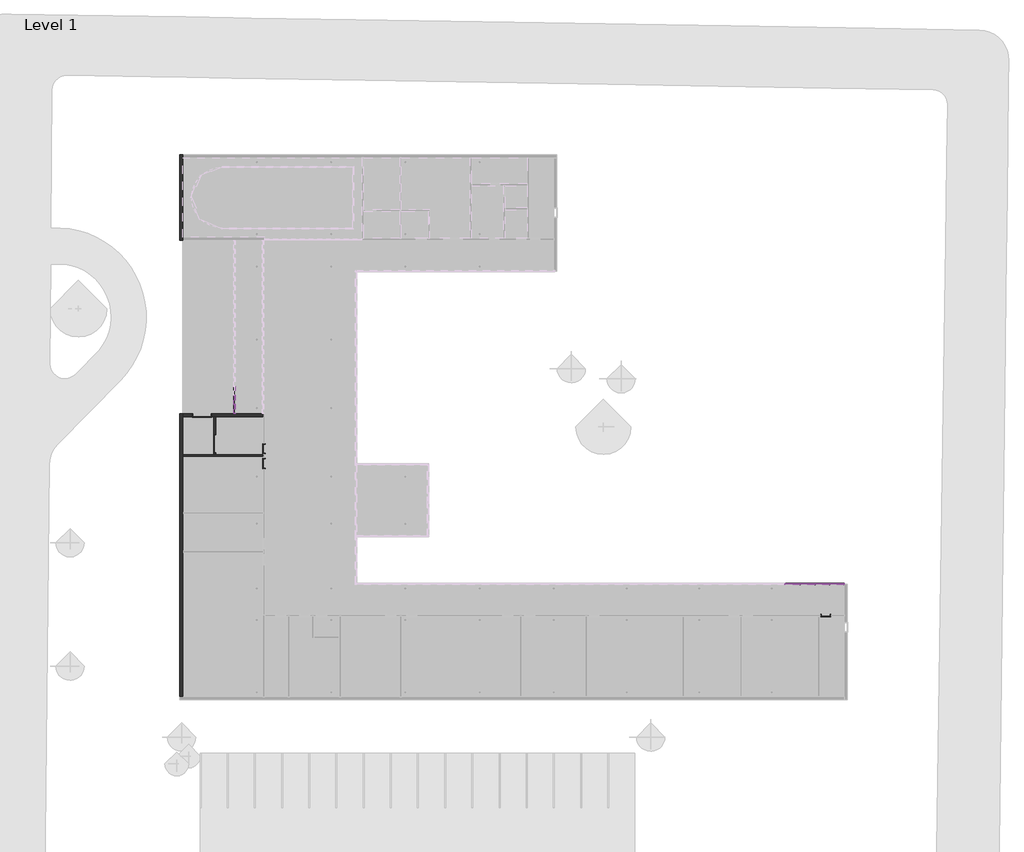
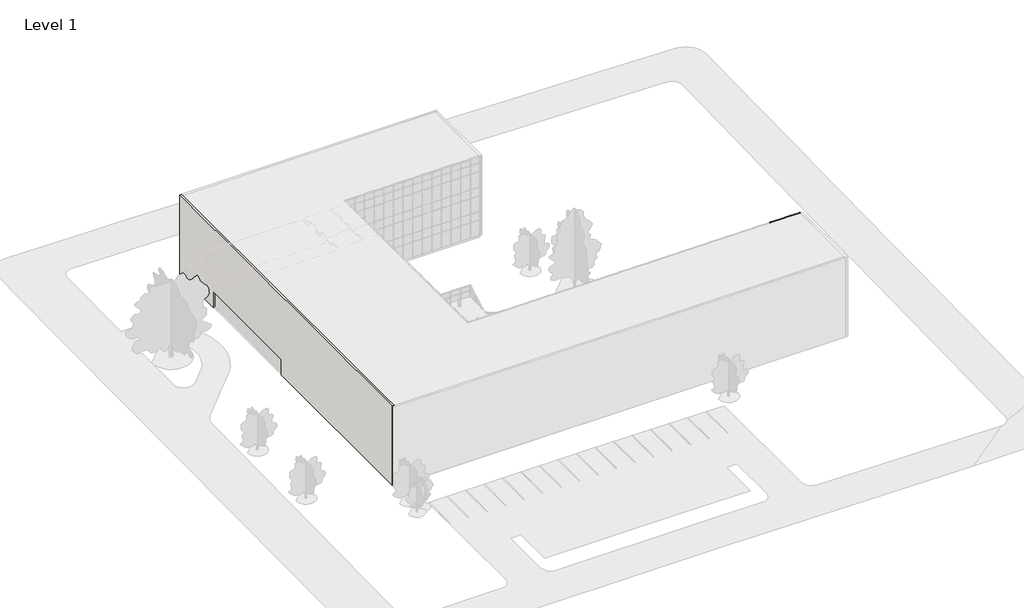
# One storey, part 9 of 18: 72 members, 33 plates, 5 doors, 4 walls.
"""IFC4 building model written with IfcOpenShell, lengths in millimetres."""

from ifc_helpers import new_model, si_unit, frame, origin, place, context, project, spatial, polyline, outline, extrude, faceted_brep, transform, mapped, element, save
from components import door_0915mm_x_2134mm_2aa27b83, door_0915mm_x_2134mm_3fa07aa3, door_2_x_0915mm_x_2134mm_c74f849d, door_2_x_0915mm_x_2134mm_afd50e46, rectangular_mullion_50mm_x_150mm_3fa3ad65, rectangular_mullion_50mm_x_150mm_d427b131, rectangular_mullion_50mm_x_150mm_d8a63713, rectangular_mullion_50mm_x_150mm_a28728bf, rectangular_mullion_50mm_x_150mm_a376ce0f, rectangular_mullion_50mm_x_150mm_4471a7bc, rectangular_mullion_50mm_x_150mm_22af440f, rectangular_mullion_50mm_x_150mm_0f59f38f, rectangular_mullion_50mm_x_150mm_0d1e5fd7, rectangular_mullion_50mm_x_150mm_5f185edf, rectangular_mullion_50mm_x_150mm_478b79f1, rectangular_mullion_50mm_x_150mm_e13fe9f0, rectangular_mullion_50mm_x_150mm_bbc1c4ea, rectangular_mullion_50mm_x_150mm_eeb88b28, rectangular_mullion_50mm_x_150mm_36202a7c, rectangular_mullion_50mm_x_150mm_84717ec5, rectangular_mullion_50mm_x_150mm_d94480a8, rectangular_mullion_50mm_x_150mm_5f630e3e, system_panel_glazed_aa3f7126, system_panel_glazed_37b7c907, system_panel_glazed_7c3f78ea, system_panel_glazed_1f05e993, system_panel_glazed_650e5b75, system_panel_glazed_65478968, system_panel_glazed_98ac4f7d, system_panel_glazed_4c130a31, system_panel_solid_0e2242f5, system_panel_solid_368a6b70, system_panel_solid_52262057, system_panel_solid_ece33ae8

model = new_model("IFC4")

# Units and contexts
model_context = context("Model", 3, world=origin())
ifc_project = project(units=[si_unit("LENGTHUNIT", "METRE", prefix="MILLI")], contexts=[model_context])

# Site, building, storey
site = spatial("IfcSite", under=ifc_project)
building = spatial("IfcBuilding", under=site)
storey = spatial("IfcBuildingStorey", under=building, Name="Level 1", Elevation=0.0)

# Doors
placement = place(None, origin())
door_0915mm_x_2134mm_shape = door_0915mm_x_2134mm_2aa27b83(model_context)
element("IfcDoor", 1, ObjectType="m-doors-hm-f1-a : 0915mm x 2134mm", at=placement, inside=storey, context=model_context, shape_type="MappedRepresentation", body=[
    mapped(door_0915mm_x_2134mm_shape, transform((-1995.8386635, 1518.5392059, 0.0), x_axis=(0.0, 1.0, 0.0), y_axis=(-1.0, 0.0, 0.0), z_axis=(0.0, 0.0, 1.0))),
])
door_0915mm_x_2134mm_2_shape = door_0915mm_x_2134mm_3fa07aa3(model_context)
element("IfcDoor", 2, ObjectType="m-doors-hm-f1-a : 0915mm x 2134mm", at=placement, inside=storey, context=model_context, shape_type="MappedRepresentation", body=[
    mapped(door_0915mm_x_2134mm_2_shape, transform((-1995.8386635, 18.5392059, 0.0), x_axis=(0.0, -1.0, 0.0), y_axis=(1.0, 0.0, 0.0), z_axis=(0.0, 0.0, 1.0))),
])
element("IfcDoor", 3, ObjectType="m-doors-hm-f1-a : 0915mm x 2134mm", at=placement, inside=storey, context=model_context, shape_type="MappedRepresentation", body=[
    mapped(door_0915mm_x_2134mm_2_shape, transform((54804.1173382, -15479.7006057, 0.0), x_axis=(1.0, 0.0, 0.0), y_axis=(0.0, 1.0, 0.0), z_axis=(0.0, 0.0, 1.0))),
])
door_2_x_0915mm_x_2134mm_shape = door_2_x_0915mm_x_2134mm_c74f849d(model_context)
element("IfcDoor", 4, ObjectType="m-doors-hm-f2-a : 2 x 0915mm x 2134mm", at=placement, inside=storey, context=model_context, shape_type="MappedRepresentation", body=[
    mapped(door_2_x_0915mm_x_2134mm_shape, transform((-6944.8386635, 2018.5392059, 0.0), x_axis=(0.0, 1.0, 0.0), y_axis=(-1.0, 0.0, 0.0), z_axis=(0.0, 0.0, 1.0))),
])
door_2_x_0915mm_x_2134mm_2_shape = door_2_x_0915mm_x_2134mm_afd50e46(model_context)
element("IfcDoor", 5, ObjectType="m-doors-hm-f2-a : 2 x 0915mm x 2134mm", at=placement, inside=storey, context=model_context, shape_type="MappedRepresentation", body=[
    mapped(door_2_x_0915mm_x_2134mm_2_shape, transform((-8069.8386635, 4696.5799804, 0.0), x_axis=(-1.0, 0.0, 0.0), y_axis=(0.0, -1.0, 0.0), z_axis=(0.0, 0.0, 1.0))),
])

# Members
rectangular_mullion_50mm_x_150mm_shape = rectangular_mullion_50mm_x_150mm_3fa3ad65(model_context)
element("IfcMember", 6, ObjectType="Rectangular Mullion : 50mm x 150mm", at=placement, inside=storey, context=model_context, shape_type="MappedRepresentation", body=[
    mapped(rectangular_mullion_50mm_x_150mm_shape, transform((-4803.8386635, 5072.5799804, 3550.0), x_axis=(0.0, 0.0, 1.0), y_axis=(-1.0, 0.0, 0.0), z_axis=(0.0, -1.0, 0.0))),
])
rectangular_mullion_50mm_x_150mm_2_shape = rectangular_mullion_50mm_x_150mm_d427b131(model_context)
element("IfcMember", 7, ObjectType="Rectangular Mullion : 50mm x 150mm", at=placement, inside=storey, context=model_context, shape_type="MappedRepresentation", body=[
    mapped(rectangular_mullion_50mm_x_150mm_2_shape, transform((-4803.8386635, 7810.4220859, 3550.0), x_axis=(0.0, 0.0, 1.0), y_axis=(-1.0, 0.0, 0.0), z_axis=(0.0, -1.0, 0.0))),
])
element("IfcMember", 8, ObjectType="Rectangular Mullion : 50mm x 150mm", at=placement, inside=storey, context=model_context, shape_type="MappedRepresentation", body=[
    mapped(rectangular_mullion_50mm_x_150mm_2_shape, transform((-4803.8386635, 6889.4747175, 3550.0), x_axis=(0.0, 0.0, 1.0), y_axis=(-1.0, 0.0, 0.0), z_axis=(0.0, -1.0, 0.0))),
])
element("IfcMember", 9, ObjectType="Rectangular Mullion : 50mm x 150mm", at=placement, inside=storey, context=model_context, shape_type="MappedRepresentation", body=[
    mapped(rectangular_mullion_50mm_x_150mm_2_shape, transform((-4803.8386635, 5968.5273491, 3550.0), x_axis=(0.0, 0.0, 1.0), y_axis=(-1.0, 0.0, 0.0), z_axis=(0.0, -1.0, 0.0))),
])
element("IfcMember", 10, ObjectType="Rectangular Mullion : 50mm x 150mm", at=placement, inside=storey, context=model_context, shape_type="MappedRepresentation", body=[
    mapped(rectangular_mullion_50mm_x_150mm_2_shape, transform((-4803.8386635, 7760.4220859, 0.0), x_axis=(0.0, 0.0, -1.0), y_axis=(-1.0, 0.0, 0.0), z_axis=(0.0, 1.0, 0.0))),
])
element("IfcMember", 11, ObjectType="Rectangular Mullion : 50mm x 150mm", at=placement, inside=storey, context=model_context, shape_type="MappedRepresentation", body=[
    mapped(rectangular_mullion_50mm_x_150mm_2_shape, transform((-4803.8386635, 6839.4747175, 0.0), x_axis=(0.0, 0.0, -1.0), y_axis=(-1.0, 0.0, 0.0), z_axis=(0.0, 1.0, 0.0))),
])
element("IfcMember", 12, ObjectType="Rectangular Mullion : 50mm x 150mm", at=placement, inside=storey, context=model_context, shape_type="MappedRepresentation", body=[
    mapped(rectangular_mullion_50mm_x_150mm_shape, transform((-4803.8386635, 5918.5273491, 0.0), x_axis=(0.0, 0.0, -1.0), y_axis=(-1.0, 0.0, 0.0), z_axis=(0.0, 1.0, 0.0))),
])
rectangular_mullion_50mm_x_150mm_3_shape = rectangular_mullion_50mm_x_150mm_d8a63713(model_context)
element("IfcMember", 13, ObjectType="Rectangular Mullion : 50mm x 150mm", at=placement, inside=storey, context=model_context, shape_type="MappedRepresentation", body=[
    mapped(rectangular_mullion_50mm_x_150mm_3_shape, transform((-4803.8386635, 7785.4220859, 0.0), x_axis=(0.0, -1.0, 0.0), y_axis=(-1.0, 0.0, 0.0), z_axis=(0.0, 0.0, -1.0))),
])
element("IfcMember", 14, ObjectType="Rectangular Mullion : 50mm x 150mm", at=placement, inside=storey, context=model_context, shape_type="MappedRepresentation", body=[
    mapped(rectangular_mullion_50mm_x_150mm_3_shape, transform((-4803.8386635, 6864.4747175, 0.0), x_axis=(0.0, -1.0, 0.0), y_axis=(-1.0, 0.0, 0.0), z_axis=(0.0, 0.0, -1.0))),
])
element("IfcMember", 15, ObjectType="Rectangular Mullion : 50mm x 150mm", at=placement, inside=storey, context=model_context, shape_type="MappedRepresentation", body=[
    mapped(rectangular_mullion_50mm_x_150mm_3_shape, transform((-4803.8386635, 5943.5273491, 0.0), x_axis=(0.0, -1.0, 0.0), y_axis=(-1.0, 0.0, 0.0), z_axis=(0.0, 0.0, -1.0))),
])
rectangular_mullion_50mm_x_150mm_4_shape = rectangular_mullion_50mm_x_150mm_a28728bf(model_context)
element("IfcMember", 16, ObjectType="Rectangular Mullion : 50mm x 150mm", at=placement, inside=storey, context=model_context, shape_type="MappedRepresentation", body=[
    mapped(rectangular_mullion_50mm_x_150mm_4_shape, transform((-4803.8386635, 6864.4747175, 2135.0), x_axis=(0.0, -1.0, 0.0), y_axis=(-1.0, 0.0, 0.0), z_axis=(0.0, 0.0, -1.0))),
])
element("IfcMember", 17, ObjectType="Rectangular Mullion : 50mm x 150mm", at=placement, inside=storey, context=model_context, shape_type="MappedRepresentation", body=[
    mapped(rectangular_mullion_50mm_x_150mm_4_shape, transform((-4803.8386635, 5943.5273491, 2135.0), x_axis=(0.0, -1.0, 0.0), y_axis=(-1.0, 0.0, 0.0), z_axis=(0.0, 0.0, -1.0))),
])
rectangular_mullion_50mm_x_150mm_5_shape = rectangular_mullion_50mm_x_150mm_a376ce0f(model_context)
element("IfcMember", 18, ObjectType="Rectangular Mullion : 50mm x 150mm", at=placement, inside=storey, context=model_context, shape_type="MappedRepresentation", body=[
    mapped(rectangular_mullion_50mm_x_150mm_5_shape, transform((-4803.8386635, 5072.5799804, 2135.0), x_axis=(0.0, 0.0, 1.0), y_axis=(-1.0, 0.0, 0.0), z_axis=(0.0, -1.0, 0.0))),
])
rectangular_mullion_50mm_x_150mm_6_shape = rectangular_mullion_50mm_x_150mm_4471a7bc(model_context)
element("IfcMember", 19, ObjectType="Rectangular Mullion : 50mm x 150mm", at=placement, inside=storey, context=model_context, shape_type="MappedRepresentation", body=[
    mapped(rectangular_mullion_50mm_x_150mm_6_shape, transform((-4803.8386635, 6889.4747175, 2135.0), x_axis=(0.0, 0.0, 1.0), y_axis=(-1.0, 0.0, 0.0), z_axis=(0.0, -1.0, 0.0))),
])
element("IfcMember", 20, ObjectType="Rectangular Mullion : 50mm x 150mm", at=placement, inside=storey, context=model_context, shape_type="MappedRepresentation", body=[
    mapped(rectangular_mullion_50mm_x_150mm_6_shape, transform((-4803.8386635, 5968.5273491, 2135.0), x_axis=(0.0, 0.0, 1.0), y_axis=(-1.0, 0.0, 0.0), z_axis=(0.0, -1.0, 0.0))),
])
rectangular_mullion_50mm_x_150mm_7_shape = rectangular_mullion_50mm_x_150mm_22af440f(model_context)
element("IfcMember", 21, ObjectType="Rectangular Mullion : 50mm x 150mm", at=placement, inside=storey, context=model_context, shape_type="MappedRepresentation", body=[
    mapped(rectangular_mullion_50mm_x_150mm_7_shape, transform((-4803.8386635, 5022.5799804, 0.0), x_axis=(0.0, -1.0, 0.0), y_axis=(-1.0, 0.0, 0.0), z_axis=(0.0, 0.0, -1.0))),
])
rectangular_mullion_50mm_x_150mm_8_shape = rectangular_mullion_50mm_x_150mm_0f59f38f(model_context)
element("IfcMember", 22, ObjectType="Rectangular Mullion : 50mm x 150mm", at=placement, inside=storey, context=model_context, shape_type="MappedRepresentation", body=[
    mapped(rectangular_mullion_50mm_x_150mm_8_shape, transform((-4803.8386635, 5022.5799804, 2135.0), x_axis=(0.0, -1.0, 0.0), y_axis=(-1.0, 0.0, 0.0), z_axis=(0.0, 0.0, -1.0))),
])
rectangular_mullion_50mm_x_150mm_9_shape = rectangular_mullion_50mm_x_150mm_0d1e5fd7(model_context)
element("IfcMember", 23, ObjectType="Rectangular Mullion : 50mm x 150mm", at=placement, inside=storey, context=model_context, shape_type="MappedRepresentation", body=[
    mapped(rectangular_mullion_50mm_x_150mm_9_shape, transform((55231.6441177, -12132.3615692, 12400.0), x_axis=(0.0, 0.0, 1.0), y_axis=(0.0, 1.0, 0.0), z_axis=(-1.0, 0.0, 0.0))),
])
element("IfcMember", 24, ObjectType="Rectangular Mullion : 50mm x 150mm", at=placement, inside=storey, context=model_context, shape_type="MappedRepresentation", body=[
    mapped(rectangular_mullion_50mm_x_150mm_9_shape, transform((56649.1173382, -12132.3615692, 0.0), x_axis=(0.0, 0.0, -1.0), y_axis=(0.0, 1.0, 0.0), z_axis=(1.0, 0.0, 0.0))),
])
rectangular_mullion_50mm_x_150mm_10_shape = rectangular_mullion_50mm_x_150mm_5f185edf(model_context)
element("IfcMember", 25, ObjectType="Rectangular Mullion : 50mm x 150mm", at=placement, inside=storey, context=model_context, shape_type="MappedRepresentation", body=[
    mapped(rectangular_mullion_50mm_x_150mm_10_shape, transform((53739.1708976, -12132.3615692, 12400.0), x_axis=(0.0, 0.0, 1.0), y_axis=(0.0, 1.0, 0.0), z_axis=(-1.0, 0.0, 0.0))),
])
element("IfcMember", 26, ObjectType="Rectangular Mullion : 50mm x 150mm", at=placement, inside=storey, context=model_context, shape_type="MappedRepresentation", body=[
    mapped(rectangular_mullion_50mm_x_150mm_10_shape, transform((52246.6976774, -12132.3615692, 12400.0), x_axis=(0.0, 0.0, 1.0), y_axis=(0.0, 1.0, 0.0), z_axis=(-1.0, 0.0, 0.0))),
])
element("IfcMember", 27, ObjectType="Rectangular Mullion : 50mm x 150mm", at=placement, inside=storey, context=model_context, shape_type="MappedRepresentation", body=[
    mapped(rectangular_mullion_50mm_x_150mm_10_shape, transform((55181.6441177, -12132.3615692, 0.0), x_axis=(0.0, 0.0, -1.0), y_axis=(0.0, 1.0, 0.0), z_axis=(1.0, 0.0, 0.0))),
])
element("IfcMember", 28, ObjectType="Rectangular Mullion : 50mm x 150mm", at=placement, inside=storey, context=model_context, shape_type="MappedRepresentation", body=[
    mapped(rectangular_mullion_50mm_x_150mm_10_shape, transform((53689.1708976, -12132.3615692, 0.0), x_axis=(0.0, 0.0, -1.0), y_axis=(0.0, 1.0, 0.0), z_axis=(1.0, 0.0, 0.0))),
])
element("IfcMember", 29, ObjectType="Rectangular Mullion : 50mm x 150mm", at=placement, inside=storey, context=model_context, shape_type="MappedRepresentation", body=[
    mapped(rectangular_mullion_50mm_x_150mm_10_shape, transform((52196.6976774, -12132.3615692, 0.0), x_axis=(0.0, 0.0, -1.0), y_axis=(0.0, 1.0, 0.0), z_axis=(1.0, 0.0, 0.0))),
])
rectangular_mullion_50mm_x_150mm_11_shape = rectangular_mullion_50mm_x_150mm_478b79f1(model_context)
element("IfcMember", 30, ObjectType="Rectangular Mullion : 50mm x 150mm", at=placement, inside=storey, context=model_context, shape_type="MappedRepresentation", body=[
    mapped(rectangular_mullion_50mm_x_150mm_11_shape, transform((55231.6441177, -12132.3615692, 3800.0), x_axis=(0.0, 0.0, 1.0), y_axis=(0.0, 1.0, 0.0), z_axis=(-1.0, 0.0, 0.0))),
])
element("IfcMember", 31, ObjectType="Rectangular Mullion : 50mm x 150mm", at=placement, inside=storey, context=model_context, shape_type="MappedRepresentation", body=[
    mapped(rectangular_mullion_50mm_x_150mm_11_shape, transform((55231.6441177, -12132.3615692, 7600.0), x_axis=(0.0, 0.0, 1.0), y_axis=(0.0, 1.0, 0.0), z_axis=(-1.0, 0.0, 0.0))),
])
element("IfcMember", 32, ObjectType="Rectangular Mullion : 50mm x 150mm", at=placement, inside=storey, context=model_context, shape_type="MappedRepresentation", body=[
    mapped(rectangular_mullion_50mm_x_150mm_11_shape, transform((55231.6441177, -12132.3615692, 11400.0), x_axis=(0.0, 0.0, 1.0), y_axis=(0.0, 1.0, 0.0), z_axis=(-1.0, 0.0, 0.0))),
])
element("IfcMember", 33, ObjectType="Rectangular Mullion : 50mm x 150mm", at=placement, inside=storey, context=model_context, shape_type="MappedRepresentation", body=[
    mapped(rectangular_mullion_50mm_x_150mm_11_shape, transform((55231.6441177, -12132.3615692, 2440.0), x_axis=(0.0, 0.0, 1.0), y_axis=(0.0, 1.0, 0.0), z_axis=(-1.0, 0.0, 0.0))),
])
element("IfcMember", 34, ObjectType="Rectangular Mullion : 50mm x 150mm", at=placement, inside=storey, context=model_context, shape_type="MappedRepresentation", body=[
    mapped(rectangular_mullion_50mm_x_150mm_11_shape, transform((55231.6441177, -12132.3615692, 6240.0), x_axis=(0.0, 0.0, 1.0), y_axis=(0.0, 1.0, 0.0), z_axis=(-1.0, 0.0, 0.0))),
])
element("IfcMember", 35, ObjectType="Rectangular Mullion : 50mm x 150mm", at=placement, inside=storey, context=model_context, shape_type="MappedRepresentation", body=[
    mapped(rectangular_mullion_50mm_x_150mm_11_shape, transform((55231.6441177, -12132.3615692, 10040.0), x_axis=(0.0, 0.0, 1.0), y_axis=(0.0, 1.0, 0.0), z_axis=(-1.0, 0.0, 0.0))),
])
rectangular_mullion_50mm_x_150mm_12_shape = rectangular_mullion_50mm_x_150mm_e13fe9f0(model_context)
element("IfcMember", 36, ObjectType="Rectangular Mullion : 50mm x 150mm", at=placement, inside=storey, context=model_context, shape_type="MappedRepresentation", body=[
    mapped(rectangular_mullion_50mm_x_150mm_12_shape, transform((53739.1708976, -12132.3615692, 3800.0), x_axis=(0.0, 0.0, 1.0), y_axis=(0.0, 1.0, 0.0), z_axis=(-1.0, 0.0, 0.0))),
])
element("IfcMember", 37, ObjectType="Rectangular Mullion : 50mm x 150mm", at=placement, inside=storey, context=model_context, shape_type="MappedRepresentation", body=[
    mapped(rectangular_mullion_50mm_x_150mm_12_shape, transform((52246.6976774, -12132.3615692, 3800.0), x_axis=(0.0, 0.0, 1.0), y_axis=(0.0, 1.0, 0.0), z_axis=(-1.0, 0.0, 0.0))),
])
element("IfcMember", 38, ObjectType="Rectangular Mullion : 50mm x 150mm", at=placement, inside=storey, context=model_context, shape_type="MappedRepresentation", body=[
    mapped(rectangular_mullion_50mm_x_150mm_12_shape, transform((53739.1708976, -12132.3615692, 7600.0), x_axis=(0.0, 0.0, 1.0), y_axis=(0.0, 1.0, 0.0), z_axis=(-1.0, 0.0, 0.0))),
])
element("IfcMember", 39, ObjectType="Rectangular Mullion : 50mm x 150mm", at=placement, inside=storey, context=model_context, shape_type="MappedRepresentation", body=[
    mapped(rectangular_mullion_50mm_x_150mm_12_shape, transform((52246.6976774, -12132.3615692, 7600.0), x_axis=(0.0, 0.0, 1.0), y_axis=(0.0, 1.0, 0.0), z_axis=(-1.0, 0.0, 0.0))),
])
element("IfcMember", 40, ObjectType="Rectangular Mullion : 50mm x 150mm", at=placement, inside=storey, context=model_context, shape_type="MappedRepresentation", body=[
    mapped(rectangular_mullion_50mm_x_150mm_12_shape, transform((53739.1708976, -12132.3615692, 11400.0), x_axis=(0.0, 0.0, 1.0), y_axis=(0.0, 1.0, 0.0), z_axis=(-1.0, 0.0, 0.0))),
])
element("IfcMember", 41, ObjectType="Rectangular Mullion : 50mm x 150mm", at=placement, inside=storey, context=model_context, shape_type="MappedRepresentation", body=[
    mapped(rectangular_mullion_50mm_x_150mm_12_shape, transform((52246.6976774, -12132.3615692, 11400.0), x_axis=(0.0, 0.0, 1.0), y_axis=(0.0, 1.0, 0.0), z_axis=(-1.0, 0.0, 0.0))),
])
element("IfcMember", 42, ObjectType="Rectangular Mullion : 50mm x 150mm", at=placement, inside=storey, context=model_context, shape_type="MappedRepresentation", body=[
    mapped(rectangular_mullion_50mm_x_150mm_12_shape, transform((53739.1708976, -12132.3615692, 2440.0), x_axis=(0.0, 0.0, 1.0), y_axis=(0.0, 1.0, 0.0), z_axis=(-1.0, 0.0, 0.0))),
])
element("IfcMember", 43, ObjectType="Rectangular Mullion : 50mm x 150mm", at=placement, inside=storey, context=model_context, shape_type="MappedRepresentation", body=[
    mapped(rectangular_mullion_50mm_x_150mm_12_shape, transform((52246.6976774, -12132.3615692, 2440.0), x_axis=(0.0, 0.0, 1.0), y_axis=(0.0, 1.0, 0.0), z_axis=(-1.0, 0.0, 0.0))),
])
element("IfcMember", 44, ObjectType="Rectangular Mullion : 50mm x 150mm", at=placement, inside=storey, context=model_context, shape_type="MappedRepresentation", body=[
    mapped(rectangular_mullion_50mm_x_150mm_12_shape, transform((53739.1708976, -12132.3615692, 6240.0), x_axis=(0.0, 0.0, 1.0), y_axis=(0.0, 1.0, 0.0), z_axis=(-1.0, 0.0, 0.0))),
])
element("IfcMember", 45, ObjectType="Rectangular Mullion : 50mm x 150mm", at=placement, inside=storey, context=model_context, shape_type="MappedRepresentation", body=[
    mapped(rectangular_mullion_50mm_x_150mm_12_shape, transform((52246.6976774, -12132.3615692, 6240.0), x_axis=(0.0, 0.0, 1.0), y_axis=(0.0, 1.0, 0.0), z_axis=(-1.0, 0.0, 0.0))),
])
element("IfcMember", 46, ObjectType="Rectangular Mullion : 50mm x 150mm", at=placement, inside=storey, context=model_context, shape_type="MappedRepresentation", body=[
    mapped(rectangular_mullion_50mm_x_150mm_12_shape, transform((53739.1708976, -12132.3615692, 10040.0), x_axis=(0.0, 0.0, 1.0), y_axis=(0.0, 1.0, 0.0), z_axis=(-1.0, 0.0, 0.0))),
])
element("IfcMember", 47, ObjectType="Rectangular Mullion : 50mm x 150mm", at=placement, inside=storey, context=model_context, shape_type="MappedRepresentation", body=[
    mapped(rectangular_mullion_50mm_x_150mm_12_shape, transform((52246.6976774, -12132.3615692, 10040.0), x_axis=(0.0, 0.0, 1.0), y_axis=(0.0, 1.0, 0.0), z_axis=(-1.0, 0.0, 0.0))),
])
element("IfcMember", 48, ObjectType="Rectangular Mullion : 50mm x 150mm", at=placement, inside=storey, context=model_context, shape_type="MappedRepresentation", body=[
    mapped(rectangular_mullion_50mm_x_150mm_12_shape, transform((50754.2244573, -12132.3615692, 10040.0), x_axis=(0.0, 0.0, 1.0), y_axis=(0.0, 1.0, 0.0), z_axis=(-1.0, 0.0, 0.0))),
])
rectangular_mullion_50mm_x_150mm_13_shape = rectangular_mullion_50mm_x_150mm_bbc1c4ea(model_context)
element("IfcMember", 49, ObjectType="Rectangular Mullion : 50mm x 150mm", at=placement, inside=storey, context=model_context, shape_type="MappedRepresentation", body=[
    mapped(rectangular_mullion_50mm_x_150mm_13_shape, transform((55206.6441177, -12132.3615692, 11400.0), x_axis=(-1.0, 0.0, 0.0), y_axis=(0.0, 1.0, 0.0), z_axis=(0.0, 0.0, -1.0))),
])
element("IfcMember", 50, ObjectType="Rectangular Mullion : 50mm x 150mm", at=placement, inside=storey, context=model_context, shape_type="MappedRepresentation", body=[
    mapped(rectangular_mullion_50mm_x_150mm_13_shape, transform((53714.1708976, -12132.3615692, 11400.0), x_axis=(-1.0, 0.0, 0.0), y_axis=(0.0, 1.0, 0.0), z_axis=(0.0, 0.0, -1.0))),
])
element("IfcMember", 51, ObjectType="Rectangular Mullion : 50mm x 150mm", at=placement, inside=storey, context=model_context, shape_type="MappedRepresentation", body=[
    mapped(rectangular_mullion_50mm_x_150mm_13_shape, transform((52221.6976774, -12132.3615692, 11400.0), x_axis=(-1.0, 0.0, 0.0), y_axis=(0.0, 1.0, 0.0), z_axis=(0.0, 0.0, -1.0))),
])
rectangular_mullion_50mm_x_150mm_14_shape = rectangular_mullion_50mm_x_150mm_eeb88b28(model_context)
element("IfcMember", 52, ObjectType="Rectangular Mullion : 50mm x 150mm", at=placement, inside=storey, context=model_context, shape_type="MappedRepresentation", body=[
    mapped(rectangular_mullion_50mm_x_150mm_14_shape, transform((56699.1173382, -12132.3615692, 12400.0), x_axis=(1.0, 0.0, 0.0), y_axis=(0.0, 1.0, 0.0), z_axis=(0.0, 0.0, 1.0))),
])
rectangular_mullion_50mm_x_150mm_15_shape = rectangular_mullion_50mm_x_150mm_36202a7c(model_context)
element("IfcMember", 53, ObjectType="Rectangular Mullion : 50mm x 150mm", at=placement, inside=storey, context=model_context, shape_type="MappedRepresentation", body=[
    mapped(rectangular_mullion_50mm_x_150mm_15_shape, transform((55206.6441177, -12132.3615692, 0.0), x_axis=(-1.0, 0.0, 0.0), y_axis=(0.0, 1.0, 0.0), z_axis=(0.0, 0.0, -1.0))),
])
element("IfcMember", 54, ObjectType="Rectangular Mullion : 50mm x 150mm", at=placement, inside=storey, context=model_context, shape_type="MappedRepresentation", body=[
    mapped(rectangular_mullion_50mm_x_150mm_15_shape, transform((53714.1708976, -12132.3615692, 0.0), x_axis=(-1.0, 0.0, 0.0), y_axis=(0.0, 1.0, 0.0), z_axis=(0.0, 0.0, -1.0))),
])
element("IfcMember", 55, ObjectType="Rectangular Mullion : 50mm x 150mm", at=placement, inside=storey, context=model_context, shape_type="MappedRepresentation", body=[
    mapped(rectangular_mullion_50mm_x_150mm_15_shape, transform((52221.6976774, -12132.3615692, 0.0), x_axis=(-1.0, 0.0, 0.0), y_axis=(0.0, 1.0, 0.0), z_axis=(0.0, 0.0, -1.0))),
])
rectangular_mullion_50mm_x_150mm_16_shape = rectangular_mullion_50mm_x_150mm_84717ec5(model_context)
element("IfcMember", 56, ObjectType="Rectangular Mullion : 50mm x 150mm", at=placement, inside=storey, context=model_context, shape_type="MappedRepresentation", body=[
    mapped(rectangular_mullion_50mm_x_150mm_16_shape, transform((55206.6441177, -12132.3615692, 2440.0), x_axis=(-1.0, 0.0, 0.0), y_axis=(0.0, 1.0, 0.0), z_axis=(0.0, 0.0, -1.0))),
])
element("IfcMember", 57, ObjectType="Rectangular Mullion : 50mm x 150mm", at=placement, inside=storey, context=model_context, shape_type="MappedRepresentation", body=[
    mapped(rectangular_mullion_50mm_x_150mm_16_shape, transform((53714.1708976, -12132.3615692, 2440.0), x_axis=(-1.0, 0.0, 0.0), y_axis=(0.0, 1.0, 0.0), z_axis=(0.0, 0.0, -1.0))),
])
element("IfcMember", 58, ObjectType="Rectangular Mullion : 50mm x 150mm", at=placement, inside=storey, context=model_context, shape_type="MappedRepresentation", body=[
    mapped(rectangular_mullion_50mm_x_150mm_16_shape, transform((52221.6976774, -12132.3615692, 2440.0), x_axis=(-1.0, 0.0, 0.0), y_axis=(0.0, 1.0, 0.0), z_axis=(0.0, 0.0, -1.0))),
])
element("IfcMember", 59, ObjectType="Rectangular Mullion : 50mm x 150mm", at=placement, inside=storey, context=model_context, shape_type="MappedRepresentation", body=[
    mapped(rectangular_mullion_50mm_x_150mm_16_shape, transform((55206.6441177, -12132.3615692, 6240.0), x_axis=(-1.0, 0.0, 0.0), y_axis=(0.0, 1.0, 0.0), z_axis=(0.0, 0.0, -1.0))),
])
element("IfcMember", 60, ObjectType="Rectangular Mullion : 50mm x 150mm", at=placement, inside=storey, context=model_context, shape_type="MappedRepresentation", body=[
    mapped(rectangular_mullion_50mm_x_150mm_16_shape, transform((53714.1708976, -12132.3615692, 6240.0), x_axis=(-1.0, 0.0, 0.0), y_axis=(0.0, 1.0, 0.0), z_axis=(0.0, 0.0, -1.0))),
])
element("IfcMember", 61, ObjectType="Rectangular Mullion : 50mm x 150mm", at=placement, inside=storey, context=model_context, shape_type="MappedRepresentation", body=[
    mapped(rectangular_mullion_50mm_x_150mm_16_shape, transform((52221.6976774, -12132.3615692, 6240.0), x_axis=(-1.0, 0.0, 0.0), y_axis=(0.0, 1.0, 0.0), z_axis=(0.0, 0.0, -1.0))),
])
element("IfcMember", 62, ObjectType="Rectangular Mullion : 50mm x 150mm", at=placement, inside=storey, context=model_context, shape_type="MappedRepresentation", body=[
    mapped(rectangular_mullion_50mm_x_150mm_16_shape, transform((55206.6441177, -12132.3615692, 10040.0), x_axis=(-1.0, 0.0, 0.0), y_axis=(0.0, 1.0, 0.0), z_axis=(0.0, 0.0, -1.0))),
])
element("IfcMember", 63, ObjectType="Rectangular Mullion : 50mm x 150mm", at=placement, inside=storey, context=model_context, shape_type="MappedRepresentation", body=[
    mapped(rectangular_mullion_50mm_x_150mm_16_shape, transform((53714.1708976, -12132.3615692, 10040.0), x_axis=(-1.0, 0.0, 0.0), y_axis=(0.0, 1.0, 0.0), z_axis=(0.0, 0.0, -1.0))),
])
element("IfcMember", 64, ObjectType="Rectangular Mullion : 50mm x 150mm", at=placement, inside=storey, context=model_context, shape_type="MappedRepresentation", body=[
    mapped(rectangular_mullion_50mm_x_150mm_16_shape, transform((52221.6976774, -12132.3615692, 10040.0), x_axis=(-1.0, 0.0, 0.0), y_axis=(0.0, 1.0, 0.0), z_axis=(0.0, 0.0, -1.0))),
])
element("IfcMember", 65, ObjectType="Rectangular Mullion : 50mm x 150mm", at=placement, inside=storey, context=model_context, shape_type="MappedRepresentation", body=[
    mapped(rectangular_mullion_50mm_x_150mm_16_shape, transform((50729.2244573, -12132.3615692, 10040.0), x_axis=(-1.0, 0.0, 0.0), y_axis=(0.0, 1.0, 0.0), z_axis=(0.0, 0.0, -1.0))),
])
rectangular_mullion_50mm_x_150mm_17_shape = rectangular_mullion_50mm_x_150mm_d94480a8(model_context)
element("IfcMember", 66, ObjectType="Rectangular Mullion : 50mm x 150mm", at=placement, inside=storey, context=model_context, shape_type="MappedRepresentation", body=[
    mapped(rectangular_mullion_50mm_x_150mm_17_shape, transform((56699.1173382, -12132.3615692, 3800.0), x_axis=(1.0, 0.0, 0.0), y_axis=(0.0, 1.0, 0.0), z_axis=(0.0, 0.0, 1.0))),
])
element("IfcMember", 67, ObjectType="Rectangular Mullion : 50mm x 150mm", at=placement, inside=storey, context=model_context, shape_type="MappedRepresentation", body=[
    mapped(rectangular_mullion_50mm_x_150mm_17_shape, transform((56699.1173382, -12132.3615692, 7600.0), x_axis=(1.0, 0.0, 0.0), y_axis=(0.0, 1.0, 0.0), z_axis=(0.0, 0.0, 1.0))),
])
element("IfcMember", 68, ObjectType="Rectangular Mullion : 50mm x 150mm", at=placement, inside=storey, context=model_context, shape_type="MappedRepresentation", body=[
    mapped(rectangular_mullion_50mm_x_150mm_17_shape, transform((56699.1173382, -12132.3615692, 11400.0), x_axis=(1.0, 0.0, 0.0), y_axis=(0.0, 1.0, 0.0), z_axis=(0.0, 0.0, 1.0))),
])
rectangular_mullion_50mm_x_150mm_18_shape = rectangular_mullion_50mm_x_150mm_5f630e3e(model_context)
element("IfcMember", 69, ObjectType="Rectangular Mullion : 50mm x 150mm", at=placement, inside=storey, context=model_context, shape_type="MappedRepresentation", body=[
    mapped(rectangular_mullion_50mm_x_150mm_18_shape, transform((56699.1173382, -12132.3615692, 2440.0), x_axis=(1.0, 0.0, 0.0), y_axis=(0.0, 1.0, 0.0), z_axis=(0.0, 0.0, 1.0))),
])
element("IfcMember", 70, ObjectType="Rectangular Mullion : 50mm x 150mm", at=placement, inside=storey, context=model_context, shape_type="MappedRepresentation", body=[
    mapped(rectangular_mullion_50mm_x_150mm_15_shape, transform((55206.6441177, -12132.3615692, 3800.0), x_axis=(-1.0, 0.0, 0.0), y_axis=(0.0, 1.0, 0.0), z_axis=(0.0, 0.0, -1.0))),
])
element("IfcMember", 71, ObjectType="Rectangular Mullion : 50mm x 150mm", at=placement, inside=storey, context=model_context, shape_type="MappedRepresentation", body=[
    mapped(rectangular_mullion_50mm_x_150mm_15_shape, transform((53714.1708976, -12132.3615692, 3800.0), x_axis=(-1.0, 0.0, 0.0), y_axis=(0.0, 1.0, 0.0), z_axis=(0.0, 0.0, -1.0))),
])
element("IfcMember", 72, ObjectType="Rectangular Mullion : 50mm x 150mm", at=placement, inside=storey, context=model_context, shape_type="MappedRepresentation", body=[
    mapped(rectangular_mullion_50mm_x_150mm_15_shape, transform((52221.6976774, -12132.3615692, 3800.0), x_axis=(-1.0, 0.0, 0.0), y_axis=(0.0, 1.0, 0.0), z_axis=(0.0, 0.0, -1.0))),
])
element("IfcMember", 73, ObjectType="Rectangular Mullion : 50mm x 150mm", at=placement, inside=storey, context=model_context, shape_type="MappedRepresentation", body=[
    mapped(rectangular_mullion_50mm_x_150mm_15_shape, transform((55206.6441177, -12132.3615692, 7600.0), x_axis=(-1.0, 0.0, 0.0), y_axis=(0.0, 1.0, 0.0), z_axis=(0.0, 0.0, -1.0))),
])
element("IfcMember", 74, ObjectType="Rectangular Mullion : 50mm x 150mm", at=placement, inside=storey, context=model_context, shape_type="MappedRepresentation", body=[
    mapped(rectangular_mullion_50mm_x_150mm_15_shape, transform((53714.1708976, -12132.3615692, 7600.0), x_axis=(-1.0, 0.0, 0.0), y_axis=(0.0, 1.0, 0.0), z_axis=(0.0, 0.0, -1.0))),
])
element("IfcMember", 75, ObjectType="Rectangular Mullion : 50mm x 150mm", at=placement, inside=storey, context=model_context, shape_type="MappedRepresentation", body=[
    mapped(rectangular_mullion_50mm_x_150mm_15_shape, transform((52221.6976774, -12132.3615692, 7600.0), x_axis=(-1.0, 0.0, 0.0), y_axis=(0.0, 1.0, 0.0), z_axis=(0.0, 0.0, -1.0))),
])
element("IfcMember", 76, ObjectType="Rectangular Mullion : 50mm x 150mm", at=placement, inside=storey, context=model_context, shape_type="MappedRepresentation", body=[
    mapped(rectangular_mullion_50mm_x_150mm_18_shape, transform((56699.1173382, -12132.3615692, 6240.0), x_axis=(1.0, 0.0, 0.0), y_axis=(0.0, 1.0, 0.0), z_axis=(0.0, 0.0, 1.0))),
])
element("IfcMember", 77, ObjectType="Rectangular Mullion : 50mm x 150mm", at=placement, inside=storey, context=model_context, shape_type="MappedRepresentation", body=[
    mapped(rectangular_mullion_50mm_x_150mm_18_shape, transform((56699.1173382, -12132.3615692, 10040.0), x_axis=(1.0, 0.0, 0.0), y_axis=(0.0, 1.0, 0.0), z_axis=(0.0, 0.0, 1.0))),
])

# Plates
system_panel_glazed_shape = system_panel_glazed_aa3f7126(model_context)
element("IfcPlate", 78, ObjectType="System Panel : Glazed", at=placement, inside=storey, context=model_context, shape_type="MappedRepresentation", body=[
    mapped(system_panel_glazed_shape, transform((-4803.8386635, 5495.5536647, 50.0), x_axis=(0.0, -1.0, 0.0), y_axis=(1.0, 0.0, 0.0), z_axis=(0.0, 0.0, 1.0))),
])
system_panel_glazed_2_shape = system_panel_glazed_37b7c907(model_context)
element("IfcPlate", 79, ObjectType="System Panel : Glazed", at=placement, inside=storey, context=model_context, shape_type="MappedRepresentation", body=[
    mapped(system_panel_glazed_2_shape, transform((-4803.8386635, 7324.9484017, 50.0), x_axis=(0.0, -1.0, 0.0), y_axis=(1.0, 0.0, 0.0), z_axis=(0.0, 0.0, 1.0))),
])
element("IfcPlate", 80, ObjectType="System Panel : Glazed", at=placement, inside=storey, context=model_context, shape_type="MappedRepresentation", body=[
    mapped(system_panel_glazed_2_shape, transform((-4803.8386635, 6404.0010333, 50.0), x_axis=(0.0, -1.0, 0.0), y_axis=(1.0, 0.0, 0.0), z_axis=(0.0, 0.0, 1.0))),
])
system_panel_glazed_3_shape = system_panel_glazed_7c3f78ea(model_context)
element("IfcPlate", 81, ObjectType="System Panel : Glazed", at=placement, inside=storey, context=model_context, shape_type="MappedRepresentation", body=[
    mapped(system_panel_glazed_3_shape, transform((-4803.8386635, 5495.5536647, 2160.0), x_axis=(0.0, -1.0, 0.0), y_axis=(1.0, 0.0, 0.0), z_axis=(0.0, 0.0, 1.0))),
])
system_panel_glazed_4_shape = system_panel_glazed_1f05e993(model_context)
element("IfcPlate", 82, ObjectType="System Panel : Glazed", at=placement, inside=storey, context=model_context, shape_type="MappedRepresentation", body=[
    mapped(system_panel_glazed_4_shape, transform((-4803.8386635, 6404.0010333, 2160.0), x_axis=(0.0, -1.0, 0.0), y_axis=(1.0, 0.0, 0.0), z_axis=(0.0, 0.0, 1.0))),
])
system_panel_glazed_5_shape = system_panel_glazed_650e5b75(model_context)
element("IfcPlate", 83, ObjectType="System Panel : Glazed", at=placement, inside=storey, context=model_context, shape_type="MappedRepresentation", body=[
    mapped(system_panel_glazed_5_shape, transform((55940.380728, -12132.3615692, 50.0), x_axis=(-1.0, 0.0, 0.0), y_axis=(0.0, -1.0, 0.0), z_axis=(0.0, 0.0, 1.0))),
])
system_panel_glazed_6_shape = system_panel_glazed_65478968(model_context)
element("IfcPlate", 84, ObjectType="System Panel : Glazed", at=placement, inside=storey, context=model_context, shape_type="MappedRepresentation", body=[
    mapped(system_panel_glazed_6_shape, transform((54460.4075077, -12132.3615692, 50.0), x_axis=(-1.0, 0.0, 0.0), y_axis=(0.0, -1.0, 0.0), z_axis=(0.0, 0.0, 1.0))),
])
element("IfcPlate", 85, ObjectType="System Panel : Glazed", at=placement, inside=storey, context=model_context, shape_type="MappedRepresentation", body=[
    mapped(system_panel_glazed_6_shape, transform((52967.9342875, -12132.3615692, 50.0), x_axis=(-1.0, 0.0, 0.0), y_axis=(0.0, -1.0, 0.0), z_axis=(0.0, 0.0, 1.0))),
])
element("IfcPlate", 86, ObjectType="System Panel : Glazed", at=placement, inside=storey, context=model_context, shape_type="MappedRepresentation", body=[
    mapped(system_panel_glazed_6_shape, transform((51475.4610673, -12132.3615692, 50.0), x_axis=(-1.0, 0.0, 0.0), y_axis=(0.0, -1.0, 0.0), z_axis=(0.0, 0.0, 1.0))),
])
system_panel_glazed_7_shape = system_panel_glazed_98ac4f7d(model_context)
element("IfcPlate", 87, ObjectType="System Panel : Glazed", at=placement, inside=storey, context=model_context, shape_type="MappedRepresentation", body=[
    mapped(system_panel_glazed_7_shape, transform((55940.380728, -12132.3615692, 3825.0), x_axis=(-1.0, 0.0, 0.0), y_axis=(0.0, -1.0, 0.0), z_axis=(0.0, 0.0, 1.0))),
])
element("IfcPlate", 88, ObjectType="System Panel : Glazed", at=placement, inside=storey, context=model_context, shape_type="MappedRepresentation", body=[
    mapped(system_panel_glazed_7_shape, transform((55940.380728, -12132.3615692, 7625.0), x_axis=(-1.0, 0.0, 0.0), y_axis=(0.0, -1.0, 0.0), z_axis=(0.0, 0.0, 1.0))),
])
system_panel_glazed_8_shape = system_panel_glazed_4c130a31(model_context)
element("IfcPlate", 89, ObjectType="System Panel : Glazed", at=placement, inside=storey, context=model_context, shape_type="MappedRepresentation", body=[
    mapped(system_panel_glazed_8_shape, transform((54460.4075077, -12132.3615692, 3825.0), x_axis=(-1.0, 0.0, 0.0), y_axis=(0.0, -1.0, 0.0), z_axis=(0.0, 0.0, 1.0))),
])
element("IfcPlate", 90, ObjectType="System Panel : Glazed", at=placement, inside=storey, context=model_context, shape_type="MappedRepresentation", body=[
    mapped(system_panel_glazed_8_shape, transform((52967.9342875, -12132.3615692, 3825.0), x_axis=(-1.0, 0.0, 0.0), y_axis=(0.0, -1.0, 0.0), z_axis=(0.0, 0.0, 1.0))),
])
element("IfcPlate", 91, ObjectType="System Panel : Glazed", at=placement, inside=storey, context=model_context, shape_type="MappedRepresentation", body=[
    mapped(system_panel_glazed_8_shape, transform((51475.4610673, -12132.3615692, 3825.0), x_axis=(-1.0, 0.0, 0.0), y_axis=(0.0, -1.0, 0.0), z_axis=(0.0, 0.0, 1.0))),
])
element("IfcPlate", 92, ObjectType="System Panel : Glazed", at=placement, inside=storey, context=model_context, shape_type="MappedRepresentation", body=[
    mapped(system_panel_glazed_8_shape, transform((54460.4075077, -12132.3615692, 7625.0), x_axis=(-1.0, 0.0, 0.0), y_axis=(0.0, -1.0, 0.0), z_axis=(0.0, 0.0, 1.0))),
])
element("IfcPlate", 93, ObjectType="System Panel : Glazed", at=placement, inside=storey, context=model_context, shape_type="MappedRepresentation", body=[
    mapped(system_panel_glazed_8_shape, transform((52967.9342875, -12132.3615692, 7625.0), x_axis=(-1.0, 0.0, 0.0), y_axis=(0.0, -1.0, 0.0), z_axis=(0.0, 0.0, 1.0))),
])
element("IfcPlate", 94, ObjectType="System Panel : Glazed", at=placement, inside=storey, context=model_context, shape_type="MappedRepresentation", body=[
    mapped(system_panel_glazed_8_shape, transform((51475.4610673, -12132.3615692, 7625.0), x_axis=(-1.0, 0.0, 0.0), y_axis=(0.0, -1.0, 0.0), z_axis=(0.0, 0.0, 1.0))),
])
system_panel_solid_shape = system_panel_solid_0e2242f5(model_context)
element("IfcPlate", 95, ObjectType="System Panel : Solid", at=placement, inside=storey, context=model_context, shape_type="MappedRepresentation", body=[
    mapped(system_panel_solid_shape, transform((55940.380728, -12132.3615692, 11425.0), x_axis=(-1.0, 0.0, 0.0), y_axis=(0.0, -1.0, 0.0), z_axis=(0.0, 0.0, 1.0))),
])
system_panel_solid_2_shape = system_panel_solid_368a6b70(model_context)
element("IfcPlate", 96, ObjectType="System Panel : Solid", at=placement, inside=storey, context=model_context, shape_type="MappedRepresentation", body=[
    mapped(system_panel_solid_2_shape, transform((54460.4075077, -12132.3615692, 11425.0), x_axis=(-1.0, 0.0, 0.0), y_axis=(0.0, -1.0, 0.0), z_axis=(0.0, 0.0, 1.0))),
])
element("IfcPlate", 97, ObjectType="System Panel : Solid", at=placement, inside=storey, context=model_context, shape_type="MappedRepresentation", body=[
    mapped(system_panel_solid_2_shape, transform((52967.9342875, -12132.3615692, 11425.0), x_axis=(-1.0, 0.0, 0.0), y_axis=(0.0, -1.0, 0.0), z_axis=(0.0, 0.0, 1.0))),
])
element("IfcPlate", 98, ObjectType="System Panel : Solid", at=placement, inside=storey, context=model_context, shape_type="MappedRepresentation", body=[
    mapped(system_panel_solid_2_shape, transform((51475.4610673, -12132.3615692, 11425.0), x_axis=(-1.0, 0.0, 0.0), y_axis=(0.0, -1.0, 0.0), z_axis=(0.0, 0.0, 1.0))),
])
system_panel_solid_3_shape = system_panel_solid_52262057(model_context)
element("IfcPlate", 99, ObjectType="System Panel : Solid", at=placement, inside=storey, context=model_context, shape_type="MappedRepresentation", body=[
    mapped(system_panel_solid_3_shape, transform((55940.380728, -12132.3615692, 2465.0), x_axis=(-1.0, 0.0, 0.0), y_axis=(0.0, -1.0, 0.0), z_axis=(0.0, 0.0, 1.0))),
])
element("IfcPlate", 100, ObjectType="System Panel : Solid", at=placement, inside=storey, context=model_context, shape_type="MappedRepresentation", body=[
    mapped(system_panel_solid_3_shape, transform((55940.380728, -12132.3615692, 6265.0), x_axis=(-1.0, 0.0, 0.0), y_axis=(0.0, -1.0, 0.0), z_axis=(0.0, 0.0, 1.0))),
])
element("IfcPlate", 101, ObjectType="System Panel : Solid", at=placement, inside=storey, context=model_context, shape_type="MappedRepresentation", body=[
    mapped(system_panel_solid_3_shape, transform((55940.380728, -12132.3615692, 10065.0), x_axis=(-1.0, 0.0, 0.0), y_axis=(0.0, -1.0, 0.0), z_axis=(0.0, 0.0, 1.0))),
])
system_panel_solid_4_shape = system_panel_solid_ece33ae8(model_context)
element("IfcPlate", 102, ObjectType="System Panel : Solid", at=placement, inside=storey, context=model_context, shape_type="MappedRepresentation", body=[
    mapped(system_panel_solid_4_shape, transform((54460.4075077, -12132.3615692, 2465.0), x_axis=(-1.0, 0.0, 0.0), y_axis=(0.0, -1.0, 0.0), z_axis=(0.0, 0.0, 1.0))),
])
element("IfcPlate", 103, ObjectType="System Panel : Solid", at=placement, inside=storey, context=model_context, shape_type="MappedRepresentation", body=[
    mapped(system_panel_solid_4_shape, transform((52967.9342875, -12132.3615692, 2465.0), x_axis=(-1.0, 0.0, 0.0), y_axis=(0.0, -1.0, 0.0), z_axis=(0.0, 0.0, 1.0))),
])
element("IfcPlate", 104, ObjectType="System Panel : Solid", at=placement, inside=storey, context=model_context, shape_type="MappedRepresentation", body=[
    mapped(system_panel_solid_4_shape, transform((51475.4610673, -12132.3615692, 2465.0), x_axis=(-1.0, 0.0, 0.0), y_axis=(0.0, -1.0, 0.0), z_axis=(0.0, 0.0, 1.0))),
])
element("IfcPlate", 105, ObjectType="System Panel : Solid", at=placement, inside=storey, context=model_context, shape_type="MappedRepresentation", body=[
    mapped(system_panel_solid_4_shape, transform((54460.4075077, -12132.3615692, 6265.0), x_axis=(-1.0, 0.0, 0.0), y_axis=(0.0, -1.0, 0.0), z_axis=(0.0, 0.0, 1.0))),
])
element("IfcPlate", 106, ObjectType="System Panel : Solid", at=placement, inside=storey, context=model_context, shape_type="MappedRepresentation", body=[
    mapped(system_panel_solid_4_shape, transform((52967.9342875, -12132.3615692, 6265.0), x_axis=(-1.0, 0.0, 0.0), y_axis=(0.0, -1.0, 0.0), z_axis=(0.0, 0.0, 1.0))),
])
element("IfcPlate", 107, ObjectType="System Panel : Solid", at=placement, inside=storey, context=model_context, shape_type="MappedRepresentation", body=[
    mapped(system_panel_solid_4_shape, transform((51475.4610673, -12132.3615692, 6265.0), x_axis=(-1.0, 0.0, 0.0), y_axis=(0.0, -1.0, 0.0), z_axis=(0.0, 0.0, 1.0))),
])
element("IfcPlate", 108, ObjectType="System Panel : Solid", at=placement, inside=storey, context=model_context, shape_type="MappedRepresentation", body=[
    mapped(system_panel_solid_4_shape, transform((54460.4075077, -12132.3615692, 10065.0), x_axis=(-1.0, 0.0, 0.0), y_axis=(0.0, -1.0, 0.0), z_axis=(0.0, 0.0, 1.0))),
])
element("IfcPlate", 109, ObjectType="System Panel : Solid", at=placement, inside=storey, context=model_context, shape_type="MappedRepresentation", body=[
    mapped(system_panel_solid_4_shape, transform((52967.9342875, -12132.3615692, 10065.0), x_axis=(-1.0, 0.0, 0.0), y_axis=(0.0, -1.0, 0.0), z_axis=(0.0, 0.0, 1.0))),
])
element("IfcPlate", 110, ObjectType="System Panel : Solid", at=placement, inside=storey, context=model_context, shape_type="MappedRepresentation", body=[
    mapped(system_panel_solid_4_shape, transform((51475.4610673, -12132.3615692, 10065.0), x_axis=(-1.0, 0.0, 0.0), y_axis=(0.0, -1.0, 0.0), z_axis=(0.0, 0.0, 1.0))),
])

# Walls
element("IfcWall", 111, ObjectType="P6 184mm - 1HR - ULC #W453", at=placement, inside=storey, context=model_context, shape_type="Brep", body=[
    faceted_brep([(-10026.8386635, 726.5392059, 0.0), (-1912.8386635, 726.5392059, 0.0), (-1912.8386635, 726.5392059, 3550.0), (-10026.8386635, 726.5392059, 3550.0), (-10026.8386635, 910.5392059, 0.0), (-10026.8386635, 910.5392059, 3550.0), (-6861.8386635, 910.5392059, 3550.0), (-6677.8386635, 910.5392059, 3550.0), (-1912.8386635, 910.5392059, 3550.0), (-1912.8386635, 910.5392059, 0.0), (-6677.8386635, 910.5392059, 0.0), (-6861.8386635, 910.5392059, 0.0)], [[[0, 1, 2, 3]], [[4, 5, 6, 7, 8, 9, 10, 11]], [[1, 0, 4, 11, 10, 9]], [[3, 2, 8, 7, 6, 5]], [[0, 3, 5, 4]], [[2, 1, 9, 8]]]),
])
element("IfcWall", 112, ObjectType="P6 184mm - 1HR - ULC #W453", at=placement, inside=storey, context=model_context, shape_type="SweptSolid", body=[
    extrude(outline(polyline([(910.5392059, 3550.0), (4720.5799804, 3550.0), (4720.5799804, 0.0), (2983.5392059, 0.0), (2983.5392059, 2184.0), (1053.5392059, 2184.0), (1053.5392059, 0.0), (910.5392059, 0.0), (910.5392059, 3550.0)])), frame((-6861.8386635, 0.0, 0.0), z_axis=(1.0, 0.0, 0.0), x_axis=(0.0, 1.0, 0.0)), (0.0, 0.0, 1.0), 184.0),
])
element("IfcWall", 113, ObjectType="Exterior - EIFS on Mtl Stud", at=placement, inside=storey, context=model_context, shape_type="Brep", body=[
    faceted_brep([(-10328.8386635, -23510.7006057, 0.0), (-10328.8386635, -23510.7006057, 12400.0), (-10328.8386635, 31120.5799804, 12400.0), (-10328.8386635, 31120.5799804, 0.0), (-10328.8386635, 22520.5799804, 0.0), (-10328.8386635, 22520.5799804, 2438.4), (-10328.8386635, 5022.5799804, 2438.4), (-10328.8386635, 5022.5799804, 0.0), (-10026.8386635, -23510.7006057, 12400.0), (-10026.8386635, -23510.7006057, 0.0), (-10026.8386635, -8967.8611817, 0.0), (-10026.8386635, -8783.8611817, 0.0), (-10026.8386635, -5067.8611817, 0.0), (-10026.8386635, -4883.8611817, 0.0), (-10026.8386635, 726.5392059, 0.0), (-10026.8386635, 910.5392059, 0.0), (-10026.8386635, 4720.5799804, 0.0), (-10026.8386635, 5022.5799804, 0.0), (-10026.8386635, 5022.5799804, 2438.4), (-10026.8386635, 22520.5799804, 2438.4), (-10026.8386635, 22520.5799804, 0.0), (-10026.8386635, 22822.5799804, 0.0), (-10026.8386635, 30818.5799804, 0.0), (-10026.8386635, 31120.5799804, 0.0), (-10026.8386635, 31120.5799804, 12400.0), (-10026.8386635, 30818.5799804, 12400.0)], [[[0, 1, 2, 3, 4, 5, 6, 7]], [[8, 9, 10, 11, 12, 13, 14, 15, 16, 17, 18, 19, 20, 21, 22, 23, 24, 25]], [[9, 0, 7, 17, 16, 15, 14, 13, 12, 11, 10]], [[3, 23, 22, 21, 20, 4]], [[2, 1, 8, 25, 24]], [[1, 0, 9, 8]], [[3, 2, 24, 23]], [[5, 19, 18, 6]], [[6, 18, 17, 7]], [[19, 5, 4, 20]]]),
])
element("IfcWall", 114, ObjectType="Exterior - EIFS on Mtl Stud", at=placement, inside=storey, context=model_context, shape_type="Brep", body=[
    faceted_brep([(-10026.8386635, 5022.5799804, 3550.0), (-1912.8386635, 5022.5799804, 3550.0), (-1912.8386635, 5022.5799804, 0.0), (-7104.8386635, 5022.5799804, 0.0), (-7104.8386635, 5022.5799804, 2184.0), (-9034.8386635, 5022.5799804, 2184.0), (-9034.8386635, 5022.5799804, 0.0), (-10026.8386635, 5022.5799804, 0.0), (-10026.8386635, 5022.5799804, 2438.4), (-1912.8386635, 4720.5799804, 3550.0), (-6677.8386635, 4720.5799804, 3550.0), (-6861.8386635, 4720.5799804, 3550.0), (-10026.8386635, 4720.5799804, 3550.0), (-10026.8386635, 4720.5799804, 0.0), (-9034.8386635, 4720.5799804, 0.0), (-9034.8386635, 4720.5799804, 2184.0), (-7104.8386635, 4720.5799804, 2184.0), (-7104.8386635, 4720.5799804, 0.0), (-6861.8386635, 4720.5799804, 0.0), (-6677.8386635, 4720.5799804, 0.0), (-1912.8386635, 4720.5799804, 0.0)], [[[0, 1, 2, 3, 4, 5, 6, 7, 8]], [[9, 10, 11, 12, 13, 14, 15, 16, 17, 18, 19, 20]], [[2, 20, 19, 18, 17, 3]], [[13, 7, 6, 14]], [[1, 0, 12, 11, 10, 9]], [[0, 8, 7, 13, 12]], [[2, 1, 9, 20]], [[5, 15, 14, 6]], [[15, 5, 4, 16]], [[16, 4, 3, 17]]]),
])

save(model, "model.ifc")
